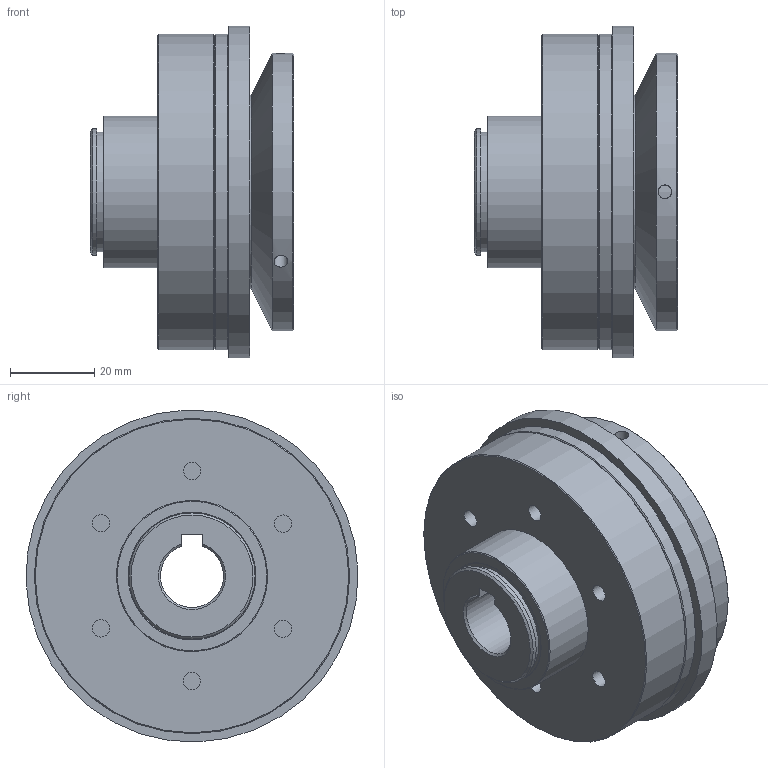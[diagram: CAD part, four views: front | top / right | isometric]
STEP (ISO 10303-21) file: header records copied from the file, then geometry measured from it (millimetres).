
FILE_DESCRIPTION( ( 'Unknown' ), '1' );
FILE_NAME( 'C:/Users/TWalzel/Documents/CAD-Daten/KBK-CP/60/KBK CP-60.stp', 'Unknown', ( 'Unknown' ), ( 'Unknown' ), 'PSStep 16.0.42', 'Unknown', ' ' );
FILE_SCHEMA( ( 'AUTOMOTIVE_DESIGN { 1 0 10303 214 1 1 1 1 }' ) );
Length unit declared in the file: millimetre
Products named in the file (7): Druckring 60; Stellring 60; Assem1; Flansch-Gleitlager CK-60; Grundkörper CP-60_1
Assembly tree (6 placements, depth 3):
  Assem1
    Flansch-Gleitlager CK-60
    Grundkörper CP-60_1
    Stellring 60
      Stellring 60
    Druckring 60
      Druckring 60
Bounding box: 48.3 x 78.95 x 78.95 mm (x, y, z)
Volume: 130620.3 mm3; surface area: 46902 mm2
Topology: 4 solids, 4 shells, 75 faces, 142 edges, 88 vertices
Faces by surface type: cylinder 32, plane 27, cone 14, torus 2
Full cylindrical faces by diameter (mm): 3.242 x3, 4 x3, 4.134 x12, 28.5 x1, 30 x3, 36 x1, 46 x2, 46.5 x1, 61.3 x1, 66 x1, 75 x2, 79 x1
Entity records: 2663 total; most frequent: CARTESIAN_POINT 569, DIRECTION 319, ORIENTED_EDGE 182, AXIS2_PLACEMENT_3D 152, EDGE_LOOP 147, FACE_OUTER_BOUND 108, EDGE_CURVE 91, VERTEX_POINT 82
